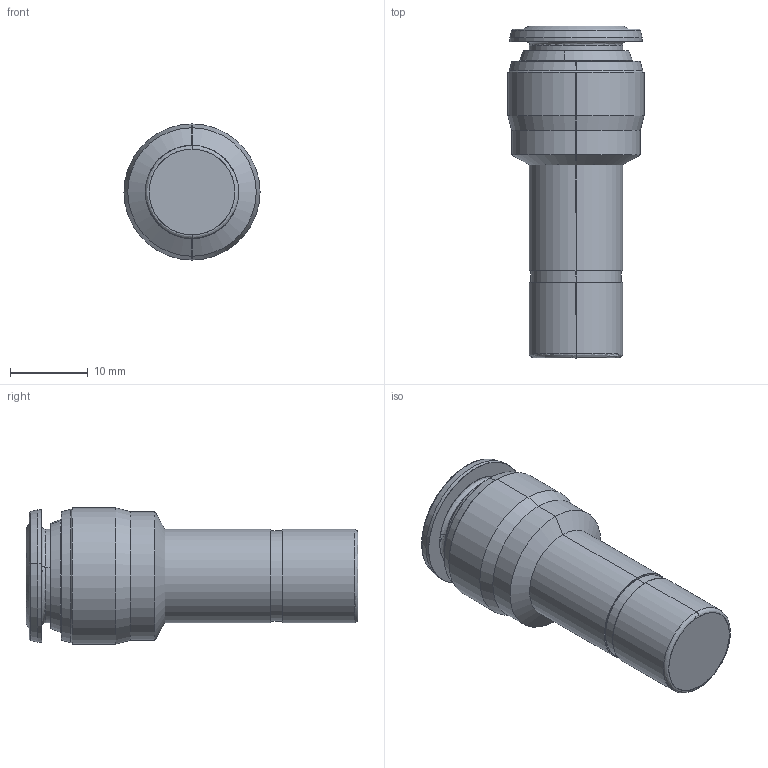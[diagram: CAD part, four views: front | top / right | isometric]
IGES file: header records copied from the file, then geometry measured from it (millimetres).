
Start section: SolidWorks IGES file using analytic representation for surfaces
Global section: file name: K:\Disegni Esecutivi\SERIE 60000 inox 316\ASSIEMI_60000\60700\IGES e STEP\6070000007.IGS; native system: SolidWorks 2016; preprocessor: SolidWorks 2016; author: cad08; date: 201001.151856; units: millimetre
Bounding box: 17.5 x 42.65 x 17.5 mm (x, y, z)
Surface area: 2535.7 mm2 (no closed solid volume)
Topology: 0 solids, 0 shells, 58 faces, 756 edges, 756 vertices
Faces by surface type: revolution 32, bspline 26
